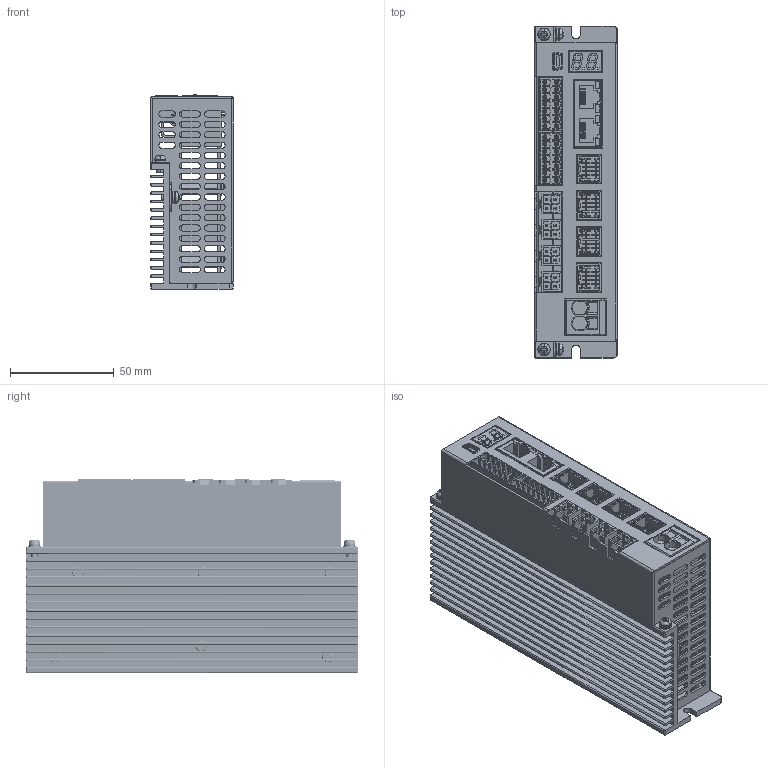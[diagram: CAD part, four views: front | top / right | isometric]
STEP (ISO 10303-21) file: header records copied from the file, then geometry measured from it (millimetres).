
FILE_DESCRIPTION((''),'2;1');
FILE_NAME('PRT0001','2025-02-28T08:58:16',('Admin'),(''),'CREO PARAMETRIC BY PTC INC, 2020074','CREO PARAMETRIC BY PTC INC, 2020074','');
FILE_SCHEMA(('CONFIG_CONTROL_DESIGN','SHAPE_APPEARANCE_LAYERS_GROUPS'));
Products named in the file (1): PRT0001
Bounding box: 40 x 160 x 93.59 mm (x, y, z)
Volume: 151989.4 mm3; surface area: 189365.1 mm2
Topology: 1 solids, 45 shells, 7178 faces, 20374 edges, 13138 vertices
Faces by surface type: plane 5463, cylinder 1355, cone 206, torus 84, bspline 28, extrusion 26, sphere 16
Entity records: 281425 total; most frequent: CARTESIAN_POINT 46824, ORIENTED_EDGE 40716, DIRECTION 36657, EDGE_CURVE 20358, VECTOR 16249, LINE 16223, VERTEX_POINT 13138, AXIS2_PLACEMENT_3D 10204
